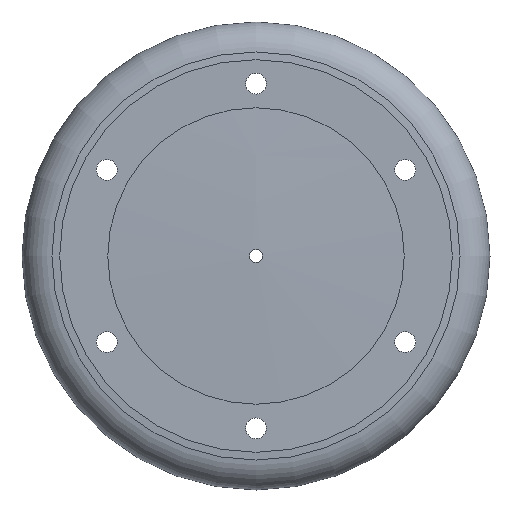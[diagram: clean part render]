
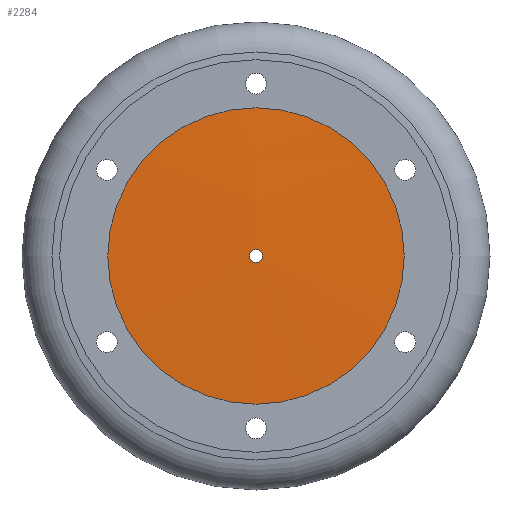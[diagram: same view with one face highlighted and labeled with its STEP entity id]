
A CAD part, left-side view. The second image highlights one B-rep face of the part: STEP entity #2284.
In plain terms, the highlighted spherical face has radius 202.9 mm.
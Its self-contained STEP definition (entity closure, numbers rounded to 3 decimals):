
#946 = CYLINDRICAL_SURFACE('',#947,0.5);
#947 = AXIS2_PLACEMENT_3D('',#948,#949,#950);
#948 = CARTESIAN_POINT('',(-71.499,-4.,213.));
#949 = DIRECTION('',(1.,-0.,-0.));
#950 = DIRECTION('',(-0.,-0.,1.));
#1981 = EDGE_CURVE('',#1982,#1982,#1984,.T.);
#1982 = VERTEX_POINT('',#1983);
#1983 = CARTESIAN_POINT('',(-71.499,-4.,213.5));
#1984 = SURFACE_CURVE('',#1985,(#1990,#1997),.PCURVE_S1.);
#1985 = CIRCLE('',#1986,0.5);
#1986 = AXIS2_PLACEMENT_3D('',#1987,#1988,#1989);
#1987 = CARTESIAN_POINT('',(-71.499,-4.,213.));
#1988 = DIRECTION('',(1.,-0.,0.));
#1989 = DIRECTION('',(-0.,-0.,1.));
#1990 = PCURVE('',#946,#1991);
#1991 = DEFINITIONAL_REPRESENTATION('',(#1992),#1996);
#1992 = LINE('',#1993,#1994);
#1993 = CARTESIAN_POINT('',(0.,0.));
#1994 = VECTOR('',#1995,1.);
#1995 = DIRECTION('',(1.,0.));
#1996 = ( GEOMETRIC_REPRESENTATION_CONTEXT(2) 
PARAMETRIC_REPRESENTATION_CONTEXT() REPRESENTATION_CONTEXT('2D SPACE',''
  ) );
#1997 = PCURVE('',#1998,#2003);
#1998 = SPHERICAL_SURFACE('',#1999,202.9);
#1999 = AXIS2_PLACEMENT_3D('',#2000,#2001,#2002);
#2000 = CARTESIAN_POINT('',(131.4,-4.,213.));
#2001 = DIRECTION('',(-1.,-0.,-0.));
#2002 = DIRECTION('',(-0.,-0.,1.));
#2003 = DEFINITIONAL_REPRESENTATION('',(#2004),#2008);
#2004 = LINE('',#2005,#2006);
#2005 = CARTESIAN_POINT('',(-0.,1.568));
#2006 = VECTOR('',#2007,1.);
#2007 = DIRECTION('',(-1.,0.));
#2008 = ( GEOMETRIC_REPRESENTATION_CONTEXT(2) 
PARAMETRIC_REPRESENTATION_CONTEXT() REPRESENTATION_CONTEXT('2D SPACE',''
  ) );
#2267 = CYLINDRICAL_SURFACE('',#2268,11.4);
#2268 = AXIS2_PLACEMENT_3D('',#2269,#2270,#2271);
#2269 = CARTESIAN_POINT('',(-68.974,-4.,213.));
#2270 = DIRECTION('',(-1.,-0.,-0.));
#2271 = DIRECTION('',(-0.,-0.,1.));
#2284 = ADVANCED_FACE('',(#2285),#1998,.T.);
#2285 = FACE_BOUND('',#2286,.F.);
#2286 = EDGE_LOOP('',(#2287,#2311,#2333,#2334));
#2287 = ORIENTED_EDGE('',*,*,#2288,.T.);
#2288 = EDGE_CURVE('',#2289,#2289,#2291,.T.);
#2289 = VERTEX_POINT('',#2290);
#2290 = CARTESIAN_POINT('',(-71.179,-4.,224.4));
#2291 = SURFACE_CURVE('',#2292,(#2297,#2304),.PCURVE_S1.);
#2292 = CIRCLE('',#2293,11.4);
#2293 = AXIS2_PLACEMENT_3D('',#2294,#2295,#2296);
#2294 = CARTESIAN_POINT('',(-71.179,-4.,213.));
#2295 = DIRECTION('',(1.,-0.,0.));
#2296 = DIRECTION('',(-0.,-0.,1.));
#2297 = PCURVE('',#1998,#2298);
#2298 = DEFINITIONAL_REPRESENTATION('',(#2299),#2303);
#2299 = LINE('',#2300,#2301);
#2300 = CARTESIAN_POINT('',(-0.,1.515));
#2301 = VECTOR('',#2302,1.);
#2302 = DIRECTION('',(-1.,0.));
#2303 = ( GEOMETRIC_REPRESENTATION_CONTEXT(2) 
PARAMETRIC_REPRESENTATION_CONTEXT() REPRESENTATION_CONTEXT('2D SPACE',''
  ) );
#2304 = PCURVE('',#2267,#2305);
#2305 = DEFINITIONAL_REPRESENTATION('',(#2306),#2310);
#2306 = LINE('',#2307,#2308);
#2307 = CARTESIAN_POINT('',(-0.,2.206));
#2308 = VECTOR('',#2309,1.);
#2309 = DIRECTION('',(-1.,0.));
#2310 = ( GEOMETRIC_REPRESENTATION_CONTEXT(2) 
PARAMETRIC_REPRESENTATION_CONTEXT() REPRESENTATION_CONTEXT('2D SPACE',''
  ) );
#2311 = ORIENTED_EDGE('',*,*,#2312,.T.);
#2312 = EDGE_CURVE('',#2289,#1982,#2313,.T.);
#2313 = SEAM_CURVE('',#2314,(#2319,#2326),.PCURVE_S1.);
#2314 = CIRCLE('',#2315,202.9);
#2315 = AXIS2_PLACEMENT_3D('',#2316,#2317,#2318);
#2316 = CARTESIAN_POINT('',(131.4,-4.,213.));
#2317 = DIRECTION('',(0.,-1.,0.));
#2318 = DIRECTION('',(-0.998,-0.,0.056));
#2319 = PCURVE('',#1998,#2320);
#2320 = DEFINITIONAL_REPRESENTATION('',(#2321),#2325);
#2321 = LINE('',#2322,#2323);
#2322 = CARTESIAN_POINT('',(-0.,1.515));
#2323 = VECTOR('',#2324,1.);
#2324 = DIRECTION('',(-0.,1.));
#2325 = ( GEOMETRIC_REPRESENTATION_CONTEXT(2) 
PARAMETRIC_REPRESENTATION_CONTEXT() REPRESENTATION_CONTEXT('2D SPACE',''
  ) );
#2326 = PCURVE('',#1998,#2327);
#2327 = DEFINITIONAL_REPRESENTATION('',(#2328),#2332);
#2328 = LINE('',#2329,#2330);
#2329 = CARTESIAN_POINT('',(-6.283,1.515));
#2330 = VECTOR('',#2331,1.);
#2331 = DIRECTION('',(-0.,1.));
#2332 = ( GEOMETRIC_REPRESENTATION_CONTEXT(2) 
PARAMETRIC_REPRESENTATION_CONTEXT() REPRESENTATION_CONTEXT('2D SPACE',''
  ) );
#2333 = ORIENTED_EDGE('',*,*,#1981,.F.);
#2334 = ORIENTED_EDGE('',*,*,#2312,.F.);
